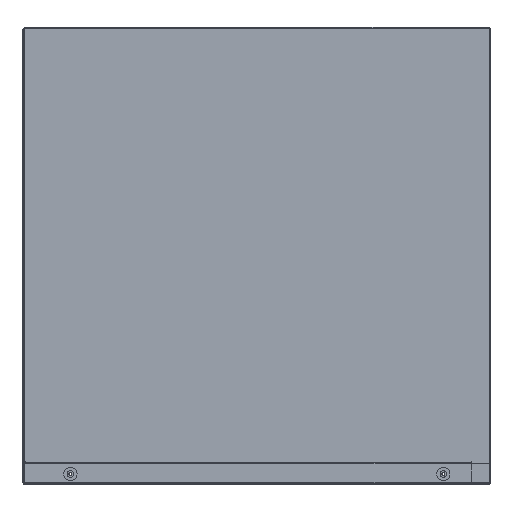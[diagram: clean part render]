
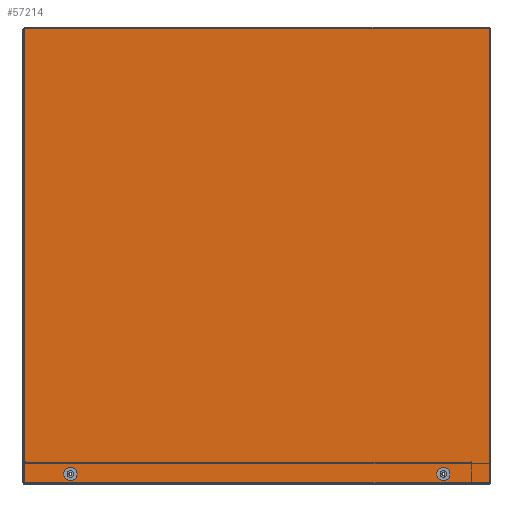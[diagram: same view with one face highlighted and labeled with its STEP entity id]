
A CAD part, left-side view. The second image highlights one B-rep face of the part: STEP entity #57214.
In plain terms, the highlighted planar face has unit normal (-1, 0, 0) as drawn and (1, 0, 0) by its records, which use the part's own axes.
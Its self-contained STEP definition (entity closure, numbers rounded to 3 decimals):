
#5459=LINE('',#86614,#12793);
#5488=LINE('',#86687,#12822);
#5489=LINE('',#86689,#12823);
#5490=LINE('',#86691,#12824);
#5491=LINE('',#86693,#12825);
#5492=LINE('',#86695,#12826);
#5493=LINE('',#86697,#12827);
#5494=LINE('',#86699,#12828);
#12793=VECTOR('',#71011,1000.);
#12822=VECTOR('',#71072,1000.);
#12823=VECTOR('',#71073,1000.);
#12824=VECTOR('',#71074,1000.);
#12825=VECTOR('',#71075,1000.);
#12826=VECTOR('',#71076,1000.);
#12827=VECTOR('',#71077,1000.);
#12828=VECTOR('',#71078,1000.);
#25853=ORIENTED_EDGE('',*,*,#36334,.F.);
#25854=ORIENTED_EDGE('',*,*,#36335,.F.);
#25855=ORIENTED_EDGE('',*,*,#36336,.F.);
#25856=ORIENTED_EDGE('',*,*,#36337,.T.);
#25857=ORIENTED_EDGE('',*,*,#36338,.T.);
#25858=ORIENTED_EDGE('',*,*,#36339,.F.);
#25859=ORIENTED_EDGE('',*,*,#36340,.F.);
#25860=ORIENTED_EDGE('',*,*,#36341,.F.);
#25861=ORIENTED_EDGE('',*,*,#36342,.F.);
#25862=ORIENTED_EDGE('',*,*,#36298,.T.);
#36298=EDGE_CURVE('',#42435,#42433,#5459,.T.);
#36334=EDGE_CURVE('',#42461,#42461,#44435,.T.);
#36335=EDGE_CURVE('',#42462,#42462,#44436,.T.);
#36336=EDGE_CURVE('',#42463,#42433,#5488,.F.);
#36337=EDGE_CURVE('',#42463,#42464,#5489,.T.);
#36338=EDGE_CURVE('',#42464,#42465,#5490,.F.);
#36339=EDGE_CURVE('',#42466,#42465,#5491,.T.);
#36340=EDGE_CURVE('',#42467,#42466,#5492,.F.);
#36341=EDGE_CURVE('',#42468,#42467,#5493,.F.);
#36342=EDGE_CURVE('',#42435,#42468,#5494,.T.);
#42433=VERTEX_POINT('',#86612);
#42435=VERTEX_POINT('',#86615);
#42461=VERTEX_POINT('',#86684);
#42462=VERTEX_POINT('',#86686);
#42463=VERTEX_POINT('',#86688);
#42464=VERTEX_POINT('',#86690);
#42465=VERTEX_POINT('',#86692);
#42466=VERTEX_POINT('',#86694);
#42467=VERTEX_POINT('',#86696);
#42468=VERTEX_POINT('',#86698);
#44435=CIRCLE('',#60508,6.005);
#44436=CIRCLE('',#60509,6.005);
#47411=EDGE_LOOP('',(#25853));
#47412=EDGE_LOOP('',(#25854));
#47413=EDGE_LOOP('',(#25855,#25856,#25857,#25858,#25859,#25860,#25861,#25862));
#51591=FACE_BOUND('',#47411,.T.);
#51592=FACE_BOUND('',#47412,.T.);
#51593=FACE_BOUND('',#47413,.T.);
#54533=PLANE('',#60507);
#57214=ADVANCED_FACE('',(#51591,#51592,#51593),#54533,.F.);
#60507=AXIS2_PLACEMENT_3D('',#86682,#71066,#71067);
#60508=AXIS2_PLACEMENT_3D('',#86683,#71068,#71069);
#60509=AXIS2_PLACEMENT_3D('',#86685,#71070,#71071);
#71011=DIRECTION('',(0.,-1.,0.));
#71066=DIRECTION('',(-1.,0.,0.));
#71067=DIRECTION('',(0.,0.,1.));
#71068=DIRECTION('',(1.,0.,0.));
#71069=DIRECTION('',(0.,-1.,0.));
#71070=DIRECTION('',(1.,0.,0.));
#71071=DIRECTION('',(0.,-1.,0.));
#71072=DIRECTION('',(0.,0.,-1.));
#71073=DIRECTION('',(0.,1.,0.));
#71074=DIRECTION('',(0.,0.,1.));
#71075=DIRECTION('',(0.,-1.,0.));
#71076=DIRECTION('',(0.,0.,1.));
#71077=DIRECTION('',(0.,1.,0.));
#71078=DIRECTION('',(0.,0.,-1.));
#86612=CARTESIAN_POINT('',(309.6,-211.748,414.998));
#86614=CARTESIAN_POINT('',(309.6,211.75,414.998));
#86615=CARTESIAN_POINT('',(309.6,211.748,414.998));
#86682=CARTESIAN_POINT('',(309.6,211.75,415.));
#86683=CARTESIAN_POINT('',(309.6,-170.,8.542));
#86684=CARTESIAN_POINT('',(309.6,-176.005,8.542));
#86685=CARTESIAN_POINT('',(309.6,170.,8.542));
#86686=CARTESIAN_POINT('',(309.6,163.995,8.542));
#86687=CARTESIAN_POINT('',(309.6,-211.748,0.));
#86688=CARTESIAN_POINT('',(309.6,-211.748,0.804));
#86689=CARTESIAN_POINT('',(309.6,211.75,0.804));
#86690=CARTESIAN_POINT('',(309.6,-211.746,0.804));
#86691=CARTESIAN_POINT('',(309.6,-211.746,415.));
#86692=CARTESIAN_POINT('',(309.6,-211.746,0.802));
#86693=CARTESIAN_POINT('',(309.6,211.75,0.802));
#86694=CARTESIAN_POINT('',(309.6,211.746,0.802));
#86695=CARTESIAN_POINT('',(309.6,211.746,415.));
#86696=CARTESIAN_POINT('',(309.6,211.746,0.804));
#86697=CARTESIAN_POINT('',(309.6,211.75,0.804));
#86698=CARTESIAN_POINT('',(309.6,211.748,0.804));
#86699=CARTESIAN_POINT('',(309.6,211.748,414.998));
